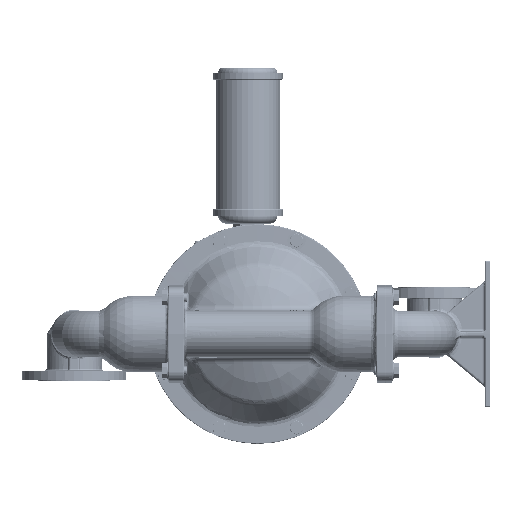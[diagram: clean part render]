
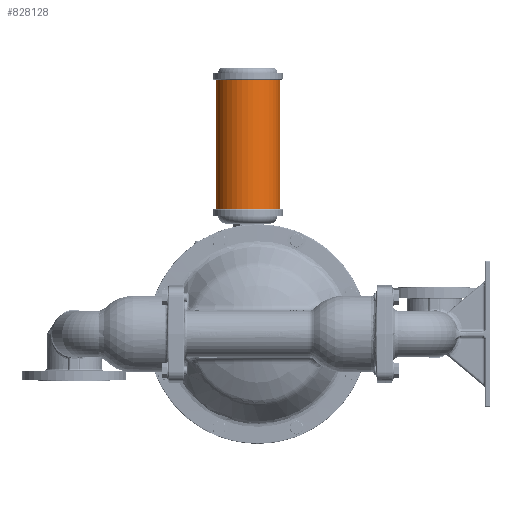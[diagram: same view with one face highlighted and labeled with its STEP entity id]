
A CAD part, left-side view. The second image highlights one B-rep face of the part: STEP entity #828128.
In plain terms, the highlighted cylindrical face has radius 61.722 mm (diameter 123.444 mm), a partial arc.
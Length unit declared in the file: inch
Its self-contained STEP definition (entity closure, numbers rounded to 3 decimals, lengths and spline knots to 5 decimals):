
#268380=DIRECTION('',(0.,0.,1.));
#268381=VECTOR('',#268380,9.78);
#268382=CARTESIAN_POINT('',(0.,3.18,9.392));
#268383=LINE('',#268382,#268381);
#268384=DIRECTION('',(0.,0.,1.));
#268385=VECTOR('',#268384,9.78);
#268386=CARTESIAN_POINT('',(0.,-1.68,9.392));
#268387=LINE('',#268386,#268385);
#268388=CARTESIAN_POINT('',(0.,0.75,9.392));
#268389=DIRECTION('',(0.,0.,1.));
#268390=DIRECTION('',(0.,1.,0.));
#268391=AXIS2_PLACEMENT_3D('',#268388,#268389,#268390);
#268413=CARTESIAN_POINT('',(0.,0.75,19.172));
#268414=DIRECTION('',(0.,0.,1.));
#268415=DIRECTION('',(0.,1.,0.));
#268416=AXIS2_PLACEMENT_3D('',#268413,#268414,#268415);
#585810=CARTESIAN_POINT('',(0.,3.18,9.392));
#585811=CARTESIAN_POINT('',(0.,3.18,19.172));
#585812=VERTEX_POINT('',#585810);
#585813=VERTEX_POINT('',#585811);
#585814=CARTESIAN_POINT('',(0.,-1.68,9.392));
#585815=CARTESIAN_POINT('',(0.,-1.68,19.172));
#585816=VERTEX_POINT('',#585814);
#585817=VERTEX_POINT('',#585815);
#828114=CARTESIAN_POINT('',(0.,0.75,20.6595));
#828115=DIRECTION('',(0.,0.,-1.));
#828116=DIRECTION('',(0.,-1.,0.));
#828117=AXIS2_PLACEMENT_3D('',#828114,#828115,#828116);
#828118=CYLINDRICAL_SURFACE('',#828117,2.43);
#828120=ORIENTED_EDGE('',*,*,#828119,.T.);
#828122=ORIENTED_EDGE('',*,*,#828121,.T.);
#828124=ORIENTED_EDGE('',*,*,#828123,.F.);
#828125=ORIENTED_EDGE('',*,*,#828095,.F.);
#828126=EDGE_LOOP('',(#828120,#828122,#828124,#828125));
#828127=FACE_OUTER_BOUND('',#828126,.F.);
#828128=ADVANCED_FACE('',(#828127),#828118,.T.);
#268392=CIRCLE('',#268391,2.43);
#268417=CIRCLE('',#268416,2.43);
#828095=EDGE_CURVE('',#585812,#585816,#268392,.T.);
#828119=EDGE_CURVE('',#585812,#585813,#268383,.T.);
#828121=EDGE_CURVE('',#585813,#585817,#268417,.T.);
#828123=EDGE_CURVE('',#585816,#585817,#268387,.T.);
